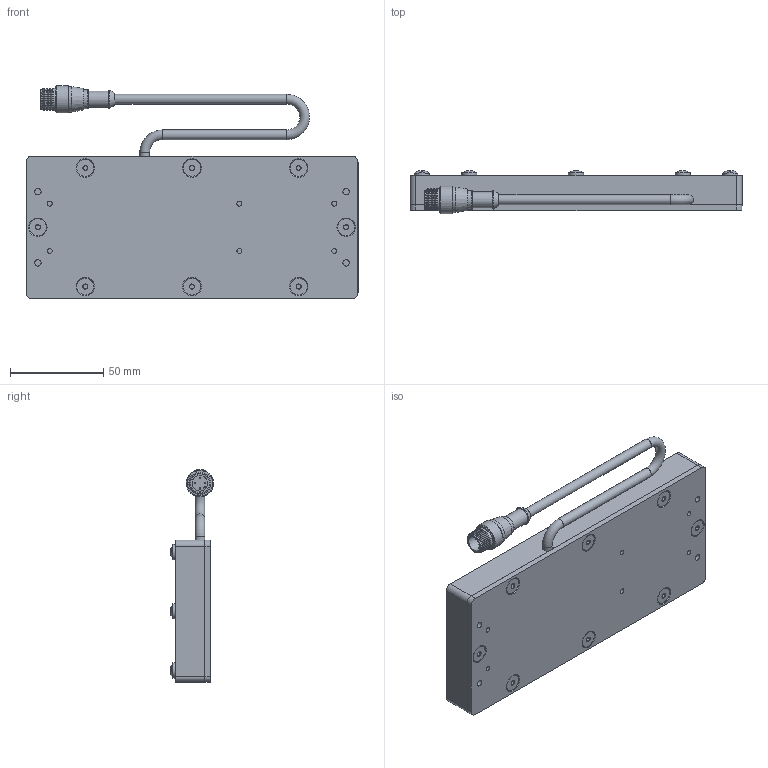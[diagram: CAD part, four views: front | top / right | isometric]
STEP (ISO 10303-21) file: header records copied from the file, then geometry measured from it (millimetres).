
FILE_DESCRIPTION (( 'STEP AP214' ), '1' );
FILE_NAME ('SBL26-XXX.STEP', '2026-04-17T16:35:20', ( '' ), ( '' ), 'SwSTEP 2.0', 'SolidWorks 2025', '' );
FILE_SCHEMA (( 'AUTOMOTIVE_DESIGN' ));
Length unit declared in the file: inch
Products named in the file (10): SBL26-XXX; 8-32 x .375 Nylon Screw_.375" 94611A192; M12 Connector 4,5 and 8 pin; WD-SBLYYXX_2x6 with holes; SC Pigtail Complete 18_4pin; Hex Standoff X.X x 8-32_0.375; MC Pigtail 24; 8-32 x 0.375 FHCS (92210A192)_92210A192; Housing SBL26; BackPlate BLYYXX_0206
Assembly tree (30 placements, depth 3):
  SBL26-XXX
    Housing SBL26
    BackPlate BLYYXX_0206
    SC Pigtail Complete 18_4pin
      MC Pigtail 24
      M12 Connector 4,5 and 8 pin
    WD-SBLYYXX_2x6 with holes
    Hex Standoff X.X x 8-32_0.375  x8
    8-32 x 0.375 FHCS (92210A192)_92210A192  x8
    8-32 x .375 Nylon Screw_.375" 94611A192  x8
Bounding box: 177.8 x 23.12 x 113.99 mm (x, y, z)
Volume: 161423.3 mm3; surface area: 97444.6 mm2
Topology: 29 solids, 29 shells, 856 faces, 2102 edges, 1338 vertices
Faces by surface type: plane 315, bspline 216, cone 147, cylinder 145, torus 21, sphere 12
Full cylindrical faces by diameter (mm): 0.762 x4, 2.705 x6, 3.454 x12, 4.496 x24, 5.207 x3, 6.604 x4, 6.858 x8, 8.128 x8, 8.382 x1, 8.636 x1, 9.119 x8, 10.16 x1, 10.541 x1, 11.938 x1, 13.716 x2, 14.732 x1
Entity records: 12834 total; most frequent: CARTESIAN_POINT 5112, DIRECTION 1296, ORIENTED_EDGE 1086, AXIS2_PLACEMENT_3D 550, EDGE_CURVE 543, EDGE_LOOP 494, VERTEX_POINT 411, FACE_OUTER_BOUND 358
